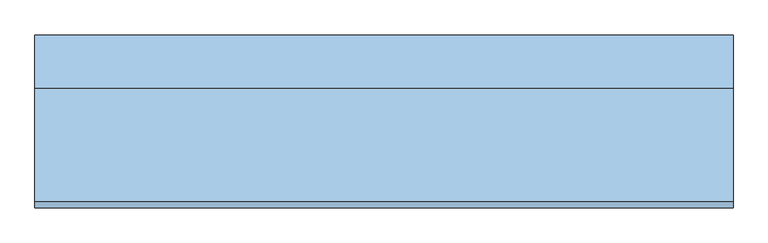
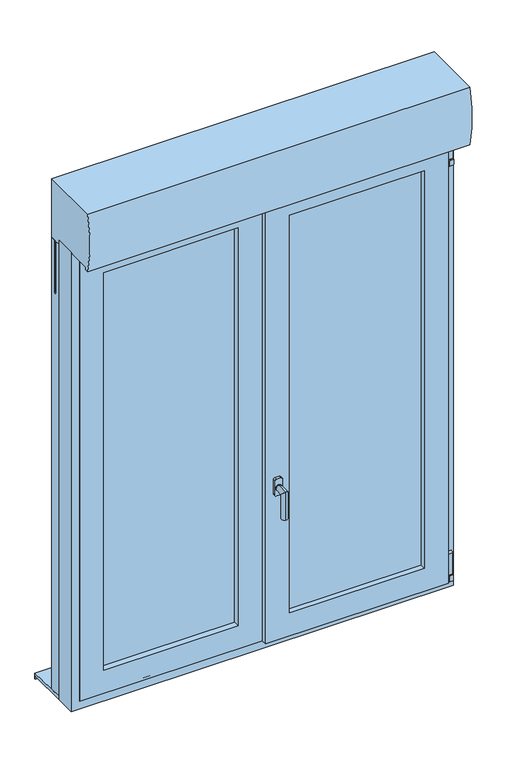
"""IFC4 building model written with IfcOpenShell, lengths in millimetres: window geometry, 5. OF1 + Fixe à G ENR PVC-ALU : 260X165 (LXH) cm."""

from ifc_helpers import new_model, si_unit, point, frame, frame_2d, origin, place, context, project, spatial, polyline, circle_curve, ellipse_curve, trimmed, segment, composite_curve, outline, extrude, faceted_brep, source, transform, mapped, element, save
from ifc_brep_helpers import plane_surface, cylinder_surface, advanced_brep


def window_5d41eee4(model_context):
    return source(origin(), model_context, "Body", "SolidModel", [
        extrude(outline(composite_curve([segment(polyline([(2401.552, 626.56), (2401.552, 641.56), (2419.5583831, 641.56)]), True, "CONTINUOUS"), segment(trimmed(circle_curve(frame_2d((2419.5583831, 639.5663831)), 1.9936169), [point((2419.5583831, 641.56))], [point((2421.552, 639.5663831))], False, "CARTESIAN"), True, "CONTINUOUS"), segment(polyline([(2421.552, 639.5663831), (2421.552, 628.5276754)]), True, "CONTINUOUS"), segment(trimmed(circle_curve(frame_2d((2419.5843246, 628.5276754)), 1.9676754), [point((2421.552, 628.5276754))], [point((2419.5843246, 626.56))], False, "CARTESIAN"), True, "CONTINUOUS"), segment(polyline([(2419.5843246, 626.56), (2401.552, 626.56)]), True, "CONTINUOUS")], self_intersect=False)), frame((0.0, -115.881543, 0.0), z_axis=(0.0, 1.0, 0.0), x_axis=(0.0, 0.0, 1.0)), (0.0, 0.0, 1.0), 15.0),
        extrude(outline(composite_curve([segment(trimmed(circle_curve(frame_2d((634.2805562, -108.3911314)), 5.0), [point((629.2805562, -108.3911314))], [point((639.2805562, -108.3911314))], False, "CARTESIAN"), True, "CONTINUOUS"), segment(trimmed(circle_curve(frame_2d((634.2805562, -108.3911314)), 5.0), [point((639.2805562, -108.3911314))], [point((629.2805562, -108.3911314))], False, "CARTESIAN"), True, "CONTINUOUS")], self_intersect=False)), frame((0.0, 0.0, 2341.552), z_axis=(0.0, 0.0, 1.0), x_axis=(1.0, 0.0, 0.0)), (0.0, 0.0, 1.0), 60.0),
        extrude(outline(composite_curve([segment(polyline([(621.56, -100.8911314), (639.6018237, -100.8911314)]), True, "CONTINUOUS"), segment(trimmed(circle_curve(frame_2d((639.6018237, -102.8493076)), 1.9581763), [point((639.6018237, -100.8911314))], [point((641.56, -102.8493076))], False, "CARTESIAN"), True, "CONTINUOUS"), segment(polyline([(641.56, -102.8493076), (641.56, -113.8729539)]), True, "CONTINUOUS"), segment(trimmed(circle_curve(frame_2d((639.5418225, -113.8729539)), 2.0181775), [point((641.56, -113.8729539))], [point((639.5418225, -115.8911314))], False, "CARTESIAN"), True, "CONTINUOUS"), segment(polyline([(639.5418225, -115.8911314), (621.56, -115.8911314), (621.56, -100.8911314)]), True, "CONTINUOUS")], self_intersect=False)), frame((0.0, 0.0, 2347.2784618), z_axis=(0.0, 0.0, 1.0), x_axis=(1.0, 0.0, 0.0)), (0.0, 0.0, 1.0), 50.0),
        extrude(outline(composite_curve([segment(polyline([(2342.2784618, 641.7805562), (2342.2784618, 626.7805562), (2324.2877116, 626.7805562)]), True, "CONTINUOUS"), segment(trimmed(circle_curve(frame_2d((2324.2877116, 628.7898059)), 2.0092498), [point((2324.2877116, 626.7805562))], [point((2322.2784618, 628.7898059))], False, "CARTESIAN"), True, "CONTINUOUS"), segment(polyline([(2322.2784618, 628.7898059), (2322.2784618, 640.1303507)]), True, "CONTINUOUS"), segment(trimmed(circle_curve(frame_2d((2324.2521312, 639.8068867)), 2.0), [point((2322.2784618, 640.1303507))], [point((2323.9286672, 641.7805562))], False, "CARTESIAN"), True, "CONTINUOUS"), segment(polyline([(2323.9286672, 641.7805562), (2342.2784618, 641.7805562)]), True, "CONTINUOUS")], self_intersect=False)), frame((0.0, -115.881543, 0.0), z_axis=(0.0, 1.0, 0.0), x_axis=(0.0, 0.0, 1.0)), (0.0, 0.0, 1.0), 15.0),
        extrude(outline(composite_curve([segment(trimmed(circle_curve(frame_2d((634.2805562, -107.5530691)), 5.0), [point((629.2805562, -107.5530691))], [point((639.2805562, -107.5530691))], False, "CARTESIAN"), True, "CONTINUOUS"), segment(trimmed(circle_curve(frame_2d((634.2805562, -107.5530691)), 5.0), [point((639.2805562, -107.5530691))], [point((629.2805562, -107.5530691))], False, "CARTESIAN"), True, "CONTINUOUS")], self_intersect=False)), frame((0.0, 0.0, 848.448), z_axis=(0.0, 0.0, 1.0), x_axis=(1.0, 0.0, 0.0)), (0.0, 0.0, 1.0), 5.0),
        extrude(outline(composite_curve([segment(polyline([(848.448, 641.7805562), (848.448, 626.7805562), (830.4572498, 626.7805562)]), True, "CONTINUOUS"), segment(trimmed(circle_curve(frame_2d((830.4572498, 628.7898059)), 2.0092498), [point((830.4572498, 626.7805562))], [point((828.448, 628.7898059))], False, "CARTESIAN"), True, "CONTINUOUS"), segment(polyline([(828.448, 628.7898059), (828.448, 640.1303507)]), True, "CONTINUOUS"), segment(trimmed(circle_curve(frame_2d((830.4216694, 639.8068867)), 2.0), [point((828.448, 640.1303507))], [point((830.0982054, 641.7805562))], False, "CARTESIAN"), True, "CONTINUOUS"), segment(polyline([(830.0982054, 641.7805562), (848.448, 641.7805562)]), True, "CONTINUOUS")], self_intersect=False)), frame((0.0, -115.0434807, 0.0), z_axis=(0.0, 1.0, 0.0), x_axis=(0.0, 0.0, 1.0)), (0.0, 0.0, 1.0), 15.0),
        extrude(outline(composite_curve([segment(polyline([(621.56, -100.0530691), (639.6018237, -100.0530691)]), True, "CONTINUOUS"), segment(trimmed(circle_curve(frame_2d((639.6018237, -102.0112454)), 1.9581763), [point((639.6018237, -100.0530691))], [point((641.56, -102.0112454))], False, "CARTESIAN"), True, "CONTINUOUS"), segment(polyline([(641.56, -102.0112454), (641.56, -113.0348917)]), True, "CONTINUOUS"), segment(trimmed(circle_curve(frame_2d((639.5418225, -113.0348917)), 2.0181775), [point((641.56, -113.0348917))], [point((639.5418225, -115.0530691))], False, "CARTESIAN"), True, "CONTINUOUS"), segment(polyline([(639.5418225, -115.0530691), (621.56, -115.0530691), (621.56, -100.0530691)]), True, "CONTINUOUS")], self_intersect=False)), frame((0.0, 0.0, 853.448), z_axis=(0.0, 0.0, 1.0), x_axis=(1.0, 0.0, 0.0)), (0.0, 0.0, 1.0), 75.0),
        advanced_brep(
        [(46.5, -129.3239543, 1414.448), (31.5, -129.3239543, 1414.448), (26.5, -129.3239543, 1409.448), (26.5, -129.3239543, 1359.448), (31.5, -129.3239543, 1354.448), (46.5, -129.3239543, 1354.448), (51.5, -129.3239543, 1359.448), (51.5, -129.3239543, 1409.448), (39.2771873, -129.3239543, 1392.2518349), (39.2771873, -129.3239543, 1372.2518349), (46.5, -117.4674689, 1414.448), (51.5, -117.4674689, 1409.448), (51.5, -117.4674689, 1359.448), (46.5, -117.4674689, 1354.448), (31.5, -117.4674689, 1354.448), (26.5, -117.4674689, 1359.448), (26.5, -117.4674689, 1409.448), (31.5, -117.4674689, 1414.448), (39.2771873, -133.0531938, 1372.2518349), (39.2771873, -133.0531938, 1392.2518349), (39.2771873, -173.0531938, 1392.2518349), (39.2771873, -153.0531938, 1372.2518349), (39.2771873, -173.0531938, 1292.2518349), (39.2771873, -153.0531938, 1292.2518349)],
        [
            (0, 1),
            (1, 2, circle_curve(frame((31.5, -129.3239543, 1409.448), z_axis=(0.0, -1.0, 0.0), x_axis=(-1.0, 0.0, 0.0)), 5.0)),
            (2, 3),
            (3, 4, circle_curve(frame((31.5, -129.3239543, 1359.448), z_axis=(0.0, -1.0, 0.0), x_axis=(-1.0, 0.0, 0.0)), 5.0)),
            (4, 5),
            (5, 6, circle_curve(frame((46.5, -129.3239543, 1359.448), z_axis=(0.0, -1.0, 0.0), x_axis=(-1.0, 0.0, 0.0)), 5.0)),
            (6, 7),
            (7, 0, circle_curve(frame((46.5, -129.3239543, 1409.448), z_axis=(0.0, -1.0, 0.0), x_axis=(-1.0, 0.0, 0.0)), 5.0)),
            (8, 9, circle_curve(frame((39.2771873, -129.3239543, 1382.2518349), z_axis=(0.0, 1.0, 0.0), x_axis=(0.0, 0.0, -1.0)), 10.0)),
            (9, 8, circle_curve(frame((39.2771873, -129.3239543, 1382.2518349), z_axis=(0.0, 1.0, 0.0), x_axis=(0.0, 0.0, -1.0)), 10.0)),
            (10, 11, circle_curve(frame((46.5, -117.4674689, 1409.448), z_axis=(0.0, 1.0, 0.0), x_axis=(-1.0, 0.0, 0.0)), 5.0)),
            (11, 12),
            (12, 13, circle_curve(frame((46.5, -117.4674689, 1359.448), z_axis=(0.0, 1.0, 0.0), x_axis=(-1.0, 0.0, 0.0)), 5.0)),
            (13, 14),
            (14, 15, circle_curve(frame((31.5, -117.4674689, 1359.448), z_axis=(0.0, 1.0, 0.0), x_axis=(-1.0, 0.0, 0.0)), 5.0)),
            (15, 16),
            (16, 17, circle_curve(frame((31.5, -117.4674689, 1409.448), z_axis=(0.0, 1.0, 0.0), x_axis=(-1.0, 0.0, 0.0)), 5.0)),
            (17, 10),
            (7, 11),
            (10, 0),
            (6, 12),
            (5, 13),
            (4, 14),
            (3, 15),
            (2, 16),
            (1, 17),
            (18, 19, circle_curve(frame((39.2771873, -133.0531938, 1382.2518349), z_axis=(0.0, -1.0, 0.0), x_axis=(0.0, 0.0, -1.0)), 10.0)),
            (19, 20),
            (20, 21, ellipse_curve(frame((39.2771873, -163.0531938, 1382.2518349), z_axis=(0.0, 0.7071067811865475, 0.7071067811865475), x_axis=(0.0, 0.7071067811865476, -0.7071067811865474)), 14.1421356, 10.0)),
            (21, 18),
            (19, 18, circle_curve(frame((39.2771873, -133.0531938, 1382.2518349), z_axis=(0.0, -1.0, 0.0), x_axis=(0.0, 0.0, -1.0)), 10.0)),
            (21, 20, ellipse_curve(frame((39.2771873, -163.0531938, 1382.2518349), z_axis=(0.0, 0.7071067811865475, 0.7071067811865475), x_axis=(0.0, 0.7071067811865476, -0.7071067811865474)), 14.1421356, 10.0)),
            (22, 23, circle_curve(frame((39.2771873, -163.0531938, 1292.2518349), z_axis=(0.0, 0.0, -1.0), x_axis=(0.0, 1.0, 0.0)), 10.0)),
            (23, 22, circle_curve(frame((39.2771873, -163.0531938, 1292.2518349), z_axis=(0.0, 0.0, -1.0), x_axis=(0.0, 1.0, 0.0)), 10.0)),
            (20, 22),
            (23, 21),
            (18, 9),
            (8, 19),
        ],
        [
            plane_surface(frame((41.5, -129.3239543, 1409.448), z_axis=(0.0, -1.0, 0.0), x_axis=(0.0, 0.0, -1.0))),
            plane_surface(frame((41.5, -117.4674689, 1409.448), z_axis=(0.0, 1.0, 0.0), x_axis=(0.0, 0.0, 1.0))),
            cylinder_surface(frame((46.5, -129.3239543, 1409.448), z_axis=(0.0, 1.0, 0.0), x_axis=(-1.0, 0.0, 0.0)), 5.0),
            plane_surface(frame((51.5, -117.4674689, 1409.448), z_axis=(1.0, 0.0, 0.0), x_axis=(0.0, -1.0, 0.0))),
            cylinder_surface(frame((46.5, -129.3239543, 1359.448), z_axis=(0.0, 1.0, 0.0), x_axis=(-1.0, 0.0, 0.0)), 5.0),
            plane_surface(frame((46.5, -117.4674689, 1354.448), z_axis=(0.0, 0.0, -1.0), x_axis=(0.0, -1.0, 0.0))),
            cylinder_surface(frame((31.5, -129.3239543, 1359.448), z_axis=(0.0, 1.0, 0.0), x_axis=(-1.0, 0.0, 0.0)), 5.0),
            plane_surface(frame((26.5, -117.4674689, 1359.448), z_axis=(-1.0, 0.0, 0.0), x_axis=(0.0, -1.0, 0.0))),
            cylinder_surface(frame((31.5, -129.3239543, 1409.448), z_axis=(0.0, 1.0, 0.0), x_axis=(-1.0, 0.0, 0.0)), 5.0),
            plane_surface(frame((31.5, -117.4674689, 1414.448), z_axis=(0.0, 0.0, 1.0), x_axis=(0.0, -1.0, 0.0))),
            cylinder_surface(frame((39.2771873, -133.0531938, 1382.2518349), z_axis=(0.0, 1.0, 0.0), x_axis=(0.0, 0.0, -1.0)), 10.0),
            plane_surface(frame((51.5, -163.0531938, 1292.2518349), z_axis=(0.0, 0.0, -1.0), x_axis=(1.0, 0.0, 0.0))),
            cylinder_surface(frame((39.2771873, -163.0531938, 1382.2518349), z_axis=(0.0, 0.0, 1.0), x_axis=(0.0, 1.0, 0.0)), 10.0),
            cylinder_surface(frame((39.2771873, -129.3239543, 1382.2518349), z_axis=(0.0, 1.0, 0.0), x_axis=(0.0, 0.0, -1.0)), 10.0),
        ],
        [
            (0, [[1, 2, 3, 4, 5, 6, 7, 8], [9, 10]]),
            (1, [[11, 12, 13, 14, 15, 16, 17, 18]]),
            (2, [[-8, 19, -11, 20]]),
            (3, [[-7, 21, -12, -19]]),
            (4, [[-6, 22, -13, -21]]),
            (5, [[-5, 23, -14, -22]]),
            (6, [[-4, 24, -15, -23]]),
            (7, [[-3, 25, -16, -24]]),
            (8, [[-2, 26, -17, -25]]),
            (9, [[-1, -20, -18, -26]]),
            (10, [[27, 28, 29, 30]]),
            (10, [[-28, 31, -30, 32]]),
            (11, [[33, 34]]),
            (12, [[-29, 35, -34, 36]]),
            (12, [[-32, -36, -33, -35]]),
            (13, [[-27, 37, -9, 38]]),
            (13, [[-31, -38, -10, -37]]),
        ],
    ),
        faceted_brep([(-650.0, -100.02, 2450.0), (-650.0, -28.9, 2450.0), (-650.0, -28.9, 800.0), (-650.0, -100.02, 800.0), (650.0, -28.9, 2450.0), (650.0, -28.9, 800.0), (-592.0983858, -28.9, 857.9016142), (592.0983858, -28.9, 857.9016142), (592.0983858, -28.9, 2392.0983858), (-592.0983858, -28.9, 2392.0983858), (650.0, -100.02, 800.0), (650.0, -100.02, 2450.0), (-613.424, -100.02, 2413.424), (613.424, -100.02, 2413.424), (613.424, -100.02, 836.576), (-613.424, -100.02, 836.576), (-613.424, -44.648, 2413.424), (-613.424, -44.648, 836.576), (613.424, -44.648, 836.576), (613.424, -44.648, 2413.424), (-592.0983858, -44.648, 2392.0983858), (592.0983858, -44.648, 2392.0983858), (592.0983858, -44.648, 857.9016142), (-592.0983858, -44.648, 857.9016142)], [[[0, 1, 2, 3]], [[1, 4, 5, 2], [6, 7, 8, 9]], [[3, 2, 5, 10]], [[3, 10, 11, 0], [12, 13, 14, 15]], [[16, 12, 15, 17]], [[17, 15, 14, 18]], [[17, 18, 19, 16], [20, 21, 22, 23]], [[9, 20, 23, 6]], [[6, 23, 22, 7]], [[10, 5, 4, 11]], [[18, 14, 13, 19]], [[7, 22, 21, 8]], [[11, 4, 1, 0]], [[19, 13, 12, 16]], [[8, 21, 20, 9]]]),
        extrude(outline(polyline([(20.324, -100.0434807), (-0.004, -100.0434807), (-0.004, -44.648), (-29.4576142, -44.648), (-29.4576142, -28.9), (35.0045299, -28.9), (35.0045299, -44.648), (20.324, -44.648), (20.324, -100.0434807)])), frame((0.0, 0.0, 857.9016142), z_axis=(0.0, 0.0, 1.0), x_axis=(1.0, 0.0, 0.0)), (0.0, 0.0, 1.0), 1534.2),
        extrude(outline(polyline([(-553.4, -54.213906), (-553.4, -50.213906), (-68.1, -50.213906), (-68.1, -54.213906), (-553.4, -54.213906)])), frame((0.0, 0.0, 896.5824883), z_axis=(0.0, 0.0, 1.0), x_axis=(1.0, 0.0, 0.0)), (0.0, 0.0, 1.0), 1456.8350233),
        extrude(outline(polyline([(-553.4, -78.213906), (-553.4, -74.213906), (-68.1, -74.213906), (-68.1, -78.213906), (-553.4, -78.213906)])), frame((0.0, 0.0, 896.5824883), z_axis=(0.0, 0.0, 1.0), x_axis=(1.0, 0.0, 0.0)), (0.0, 0.0, 1.0), 1456.8350233),
        extrude(outline(polyline([(553.4, -96.019954), (553.4, -100.019954), (68.1, -100.019954), (68.1, -96.019954), (553.4, -96.019954)])), frame((0.0, 0.0, 896.5824883), z_axis=(0.0, 0.0, 1.0), x_axis=(1.0, 0.0, 0.0)), (0.0, 0.0, 1.0), 1456.8350233),
        extrude(outline(polyline([(553.4, -68.9786213), (553.4, -72.9786213), (68.1, -72.9786213), (68.1, -68.9786213), (553.4, -68.9786213)])), frame((0.0, 0.0, 896.5824883), z_axis=(0.0, 0.0, 1.0), x_axis=(1.0, 0.0, 0.0)), (0.0, 0.0, 1.0), 1456.8350233),
        extrude(outline(polyline([(553.4, -41.5821328), (553.4, -47.5821328), (68.1, -47.5821328), (68.1, -41.5821328), (553.4, -41.5821328)])), frame((0.0, 0.0, 896.5824883), z_axis=(0.0, 0.0, 1.0), x_axis=(1.0, 0.0, 0.0)), (0.0, 0.0, 1.0), 1456.8350233),
        faceted_brep([(-29.4576142, -28.9, 2392.0983858), (-29.4576142, -44.648, 2392.0983858), (-29.4576142, -44.648, 857.9016142), (-29.4576142, -28.9, 857.9016142), (-0.004, -44.648, 828.448), (-621.56, -44.648, 828.448), (-621.56, -44.648, 2421.552), (-0.004, -44.648, 2421.552), (-592.1063858, -44.648, 2392.0983858), (-592.1063858, -44.648, 857.9016142), (-592.1063858, -28.9, 857.9016142), (-592.1063858, -28.9, 2392.0983858), (-82.0319508, -28.9, 2339.5240492), (-539.5320492, -28.9, 2339.5240492), (-539.5320492, -28.9, 910.4759508), (-82.0319508, -28.9, 910.4759508), (-539.5320492, -50.213906, 910.4759508), (-539.5320492, -50.213906, 2339.5240492), (-82.0319508, -50.213906, 910.4759508), (-82.0319508, -50.213906, 2339.5240492), (-0.004, -100.963906, 828.448), (-621.56, -100.963906, 828.448), (-621.56, -100.963906, 2421.552), (-0.004, -100.963906, 2421.552), (-82.0319508, -100.963906, 910.4759508), (-539.5320492, -100.963906, 910.4759508), (-539.5320492, -100.963906, 2339.5240492), (-82.0319508, -100.963906, 2339.5240492), (-82.0319508, -78.213906, 910.4759508), (-539.5320492, -78.213906, 910.4759508), (-539.5320492, -78.213906, 2339.5240492), (-82.0319508, -78.213906, 2339.5240492), (-68.1384883, -50.213906, 2353.4175117), (-553.4255117, -50.213906, 2353.4175117), (-553.4255117, -50.213906, 896.5824883), (-68.1384883, -50.213906, 896.5824883), (-68.1384883, -54.213906, 2353.4175117), (-68.1384883, -54.213906, 896.5824883), (-553.4255117, -54.213906, 896.5824883), (-553.4255117, -54.213906, 2353.4175117), (-82.0319508, -54.213906, 2339.5240492), (-539.5320492, -54.213906, 2339.5240492), (-539.5320492, -54.213906, 910.4759508), (-82.0319508, -54.213906, 910.4759508), (-68.1384883, -78.213906, 896.5824883), (-553.4255117, -78.213906, 896.5824883), (-553.4255117, -78.213906, 2353.4175117), (-68.1384883, -78.213906, 2353.4175117), (-539.5320492, -74.213906, 910.4759508), (-539.5320492, -74.213906, 2339.5240492), (-82.0319508, -74.213906, 910.4759508), (-82.0319508, -74.213906, 2339.5240492), (-68.1384883, -74.213906, 2353.4175117), (-553.4255117, -74.213906, 2353.4175117), (-553.4255117, -74.213906, 896.5824883), (-68.1384883, -74.213906, 896.5824883)], [[[0, 1, 2, 3]], [[4, 5, 6, 7], [1, 8, 9, 2]], [[3, 2, 9, 10]], [[3, 10, 11, 0], [12, 13, 14, 15]], [[10, 9, 8, 11]], [[16, 14, 13, 17]], [[18, 15, 14, 16]], [[19, 12, 15, 18]], [[4, 20, 21, 5]], [[5, 21, 22, 6]], [[23, 20, 4, 7]], [[23, 22, 21, 20], [24, 25, 26, 27]], [[24, 28, 29, 25]], [[25, 29, 30, 26]], [[27, 31, 28, 24]], [[32, 33, 34, 35], [18, 16, 17, 19]], [[36, 32, 35, 37]], [[37, 35, 34, 38]], [[37, 38, 39, 36], [40, 41, 42, 43]], [[44, 45, 46, 47], [31, 30, 29, 28]], [[38, 34, 33, 39]], [[48, 42, 41, 49]], [[50, 43, 42, 48]], [[51, 40, 43, 50]], [[52, 53, 54, 55], [50, 48, 49, 51]], [[47, 52, 55, 44]], [[44, 55, 54, 45]], [[45, 54, 53, 46]], [[11, 8, 1, 0]], [[17, 13, 12, 19]], [[6, 22, 23, 7]], [[26, 30, 31, 27]], [[39, 33, 32, 36]], [[49, 41, 40, 51]], [[46, 53, 52, 47]]]),
        faceted_brep([(561.6086701, -48.2039543, 2361.6086701), (561.6086701, -100.019954, 2361.6086701), (561.6086701, -100.019954, 888.3913299), (561.6086701, -48.2039543, 888.3913299), (59.9473299, -100.019954, 2361.6086701), (59.9473299, -100.019954, 888.3913299), (553.4175117, -100.019954, 2353.4175117), (553.4175117, -100.019954, 896.5824883), (68.1384883, -100.019954, 896.5824883), (68.1384883, -100.019954, 2353.4175117), (59.9473299, -48.2039543, 888.3913299), (35.0045299, -48.2039543, 2386.5514701), (35.0045299, -48.2039543, 863.4485299), (586.5514701, -48.2039543, 863.4485299), (586.5514701, -48.2039543, 2386.5514701), (59.9473299, -48.2039543, 2361.6086701), (586.5514701, -28.7475756, 2386.5514701), (586.5514701, -28.7475756, 863.4485299), (35.0045299, -28.7475756, 863.4485299), (35.0045299, -28.7475756, 2386.5514701), (86.2166614, -28.7475756, 2335.3393386), (86.2166614, -28.7475756, 914.6606614), (535.3393386, -28.7475756, 914.6606614), (535.3393386, -28.7475756, 2335.3393386), (535.3393386, -41.5821328, 2335.3393386), (535.3393386, -41.5821328, 914.6606614), (86.2166614, -41.5821328, 914.6606614), (68.1384883, -41.5821328, 2353.4175117), (68.1384883, -41.5821328, 896.5824883), (553.4175117, -41.5821328, 896.5824883), (553.4175117, -41.5821328, 2353.4175117), (86.2166614, -41.5821328, 2335.3393386), (536.1974041, -68.9786213, 2336.1974041), (536.1974041, -47.5821328, 2336.1974041), (536.1974041, -47.5821328, 913.8025959), (536.1974041, -68.9786213, 913.8025959), (553.4175117, -47.5821328, 2353.4175117), (553.4175117, -47.5821328, 896.5824883), (68.1384883, -47.5821328, 896.5824883), (68.1384883, -47.5821328, 2353.4175117), (85.3585959, -47.5821328, 2336.1974041), (85.3585959, -47.5821328, 913.8025959), (85.3585959, -68.9786213, 913.8025959), (68.1384883, -68.9786213, 2353.4175117), (68.1384883, -68.9786213, 896.5824883), (553.4175117, -68.9786213, 896.5824883), (553.4175117, -68.9786213, 2353.4175117), (85.3585959, -68.9786213, 2336.1974041), (539.5240492, -96.019954, 2339.5240492), (539.5240492, -72.9786213, 2339.5240492), (539.5240492, -72.9786213, 910.4759508), (539.5240492, -96.019954, 910.4759508), (553.4175117, -72.9786213, 2353.4175117), (553.4175117, -72.9786213, 896.5824883), (68.1384883, -72.9786213, 896.5824883), (68.1384883, -72.9786213, 2353.4175117), (82.0319508, -72.9786213, 2339.5240492), (82.0319508, -72.9786213, 910.4759508), (82.0319508, -96.019954, 910.4759508), (68.1384883, -96.019954, 2353.4175117), (68.1384883, -96.019954, 896.5824883), (553.4175117, -96.019954, 896.5824883), (553.4175117, -96.019954, 2353.4175117), (82.0319508, -96.019954, 2339.5240492)], [[[0, 1, 2, 3]], [[4, 5, 2, 1], [6, 7, 8, 9]], [[3, 2, 5, 10]], [[11, 12, 13, 14], [0, 3, 10, 15]], [[16, 14, 13, 17]], [[17, 13, 12, 18]], [[16, 17, 18, 19], [20, 21, 22, 23]], [[24, 23, 22, 25]], [[25, 22, 21, 26]], [[27, 28, 29, 30], [24, 25, 26, 31]], [[32, 33, 34, 35]], [[36, 37, 38, 39], [40, 41, 34, 33]], [[35, 34, 41, 42]], [[43, 44, 45, 46], [32, 35, 42, 47]], [[48, 49, 50, 51]], [[52, 53, 54, 55], [56, 57, 50, 49]], [[51, 50, 57, 58]], [[59, 60, 61, 62], [48, 51, 58, 63]], [[6, 62, 61, 7]], [[7, 61, 60, 8]], [[36, 30, 29, 37]], [[37, 29, 28, 38]], [[52, 46, 45, 53]], [[53, 45, 44, 54]], [[58, 57, 56, 63]], [[8, 60, 59, 9]], [[10, 5, 4, 15]], [[18, 12, 11, 19]], [[26, 21, 20, 31]], [[38, 28, 27, 39]], [[42, 41, 40, 47]], [[54, 44, 43, 55]], [[15, 4, 1, 0]], [[19, 11, 14, 16]], [[31, 20, 23, 24]], [[47, 40, 33, 32]], [[63, 56, 49, 48]], [[9, 59, 62, 6]], [[39, 27, 30, 36]], [[55, 43, 46, 52]]]),
        faceted_brep([(0.004, -119.3239543, 828.448), (0.004, -100.0434807, 828.448), (621.56, -100.0434807, 828.448), (621.56, -119.3239543, 828.448), (621.56, -100.0434807, 2421.552), (621.56, -119.3239543, 2421.552), (0.004, -100.0434807, 2421.552), (601.24, -100.0434807, 2401.232), (20.324, -100.0434807, 2401.232), (20.324, -100.0434807, 848.768), (601.24, -100.0434807, 848.768), (0.004, -119.3239543, 2421.552), (539.3585043, -119.3239543, 910.6494957), (82.2054957, -119.3239543, 910.6494957), (82.2054957, -119.3239543, 2339.3505043), (539.3585043, -119.3239543, 2339.3505043), (82.2054957, -100.019954, 910.6494957), (539.3585043, -100.019954, 910.6494957), (539.3585043, -100.019954, 2339.3505043), (561.6166701, -100.019954, 888.3913299), (59.9473299, -100.019954, 888.3913299), (59.9473299, -100.019954, 2361.6086701), (561.6166701, -100.019954, 2361.6086701), (82.2054957, -100.019954, 2339.3505043), (59.9473299, -48.2039543, 888.3913299), (561.6166701, -48.2039543, 888.3913299), (561.6166701, -48.2039543, 2361.6086701), (592.1063858, -48.2039543, 857.9016142), (29.4576142, -48.2039543, 857.9016142), (29.4576142, -48.2039543, 2392.0983858), (592.1063858, -48.2039543, 2392.0983858), (59.9473299, -48.2039543, 2361.6086701), (29.4576142, -44.648, 857.9016142), (592.1063858, -44.648, 857.9016142), (592.1063858, -44.648, 2392.0983858), (601.24, -44.648, 848.768), (20.324, -44.648, 848.768), (20.324, -44.648, 2401.232), (601.24, -44.648, 2401.232), (29.4576142, -44.648, 2392.0983858)], [[[0, 1, 2, 3]], [[3, 2, 4, 5]], [[2, 1, 6, 4], [7, 8, 9, 10]], [[5, 11, 0, 3], [12, 13, 14, 15]], [[16, 13, 12, 17]], [[17, 12, 15, 18]], [[19, 20, 21, 22], [18, 23, 16, 17]], [[24, 20, 19, 25]], [[25, 19, 22, 26]], [[27, 28, 29, 30], [26, 31, 24, 25]], [[32, 28, 27, 33]], [[33, 27, 30, 34]], [[35, 36, 37, 38], [34, 39, 32, 33]], [[9, 36, 35, 10]], [[10, 35, 38, 7]], [[11, 6, 1, 0]], [[23, 14, 13, 16]], [[31, 21, 20, 24]], [[39, 29, 28, 32]], [[8, 37, 36, 9]], [[5, 4, 6, 11]], [[18, 15, 14, 23]], [[26, 22, 21, 31]], [[34, 30, 29, 39]], [[7, 38, 37, 8]]]),
        extrude(outline(composite_curve([segment(polyline([(-186.3991192, 2440.3409737), (-197.3316724, 2440.3409737)]), True, "CONTINUOUS"), segment(trimmed(circle_curve(frame_2d((189.1050523, 2543.6204869)), 400.0), [point((-197.3316724, 2440.3409737))], [point((-197.3316724, 2646.9))], False, "CARTESIAN"), True, "CONTINUOUS"), segment(polyline([(-197.3316724, 2646.9), (13.0999994, 2646.9), (13.0999994, 2436.0216226), (-4.9499979, 2436.0216226), (-4.9499979, 2434.2216225), (-2.7215215, 2434.2216225), (-2.7215215, 2409.9791617), (-4.9499979, 2409.9791617), (-4.9499979, 2408.1791616), (-2.7215215, 2408.1791616), (-2.7215215, 2383.9367008), (-4.9499979, 2383.9367008), (-4.9499979, 2382.1367006), (-2.7215215, 2382.1367006), (-2.7215215, 2357.8942398), (-4.9499979, 2357.8942398), (-4.9499979, 2356.0942397), (-2.7215215, 2356.0942397), (-2.7215215, 2331.8517789), (-4.9499979, 2331.8517789), (-4.9499979, 2330.0517788), (-2.7215215, 2330.0517788), (-2.7215215, 2305.809318), (-4.9499979, 2305.809318), (-4.9499979, 2304.0093179), (-2.7215215, 2304.0093179), (-2.7215215, 2279.7668571), (-4.9499979, 2279.7668571), (-4.9499979, 2277.966857), (-2.7215215, 2277.966857), (-2.7215215, 2253.7243961), (-4.9499979, 2253.7243961), (-4.9499979, 2251.9243963), (-3.044091, 2251.9243963), (-3.044091, 2248.977424), (-6.4, 2245.6232688), (-9.8999992, 2248.9774251), (-9.8999992, 2251.9243963), (-7.7499979, 2251.9243963), (-7.7499979, 2253.7243961), (-9.9999979, 2253.7243961), (-9.9999979, 2277.9668572), (-7.7499979, 2277.9668572), (-7.7499979, 2279.7668571), (-9.9999979, 2279.7668571), (-9.9999979, 2304.0093181), (-7.7499979, 2304.0093181), (-7.7499979, 2305.809318), (-9.9999979, 2305.809318), (-9.9999979, 2330.051779), (-7.7499979, 2330.051779), (-7.7499979, 2331.8517789), (-9.9999979, 2331.8517789), (-9.9999979, 2356.09424), (-7.7499979, 2356.09424), (-7.7499979, 2357.8942398), (-9.9999979, 2357.8942398), (-9.9999979, 2382.1367009), (-7.7499979, 2382.1367009), (-7.7499979, 2383.9367008), (-9.9999979, 2383.9367008), (-9.9999979, 2408.1791618), (-7.7499979, 2408.1791618), (-7.7499979, 2409.9791617), (-9.9999979, 2409.9791617), (-9.9999979, 2434.2216227), (-7.7499979, 2434.2216227), (-7.7499979, 2436.0216226), (-28.9, 2436.0216226), (-28.9, 2450.0), (-186.3991192, 2450.0), (-186.3991192, 2440.3409737)]), True, "CONTINUOUS")], self_intersect=False)), frame((-650.0, 0.0, 0.0), z_axis=(1.0, 0.0, 0.0), x_axis=(0.0, 1.0, 0.0)), (0.0, 0.0, 1.0), 1300.0),
        extrude(outline(polyline([(110.0, 800.0), (-28.9, 800.0), (-28.9, 813.0), (113.0, 809.772555), (113.0, 790.0), (110.0, 790.0), (110.0, 800.0)])), frame((-650.0, 0.0, 0.0), z_axis=(1.0, 0.0, 0.0), x_axis=(0.0, 1.0, 0.0)), (0.0, 0.0, 1.0), 1300.0),
        extrude(outline(polyline([(-649.0, 13.0999994), (-649.0, 2.0999994), (-629.0, 2.0999994), (-629.0, -0.9000006), (-649.0, -0.9000006), (-649.0, -11.9000006), (-629.0, -11.9000006), (-629.0, -14.9000006), (-649.0, -14.9000006), (-649.0, -28.9000006), (-650.0, -28.9000006), (-650.0, 13.0999994), (-649.0, 13.0999994)])), frame((0.0, 0.0, 813.0), z_axis=(0.0, 0.0, 1.0), x_axis=(1.0, 0.0, 0.0)), (0.0, 0.0, 1.0), 1623.0216226),
        extrude(outline(polyline([(649.0, 13.0999994), (650.0, 13.0999994), (650.0, -28.9000006), (649.0, -28.9000006), (649.0, -14.9000006), (629.0, -14.9000006), (629.0, -11.9000006), (649.0, -11.9000006), (649.0, -0.9000006), (629.0, -0.9000006), (629.0, 2.0999994), (649.0, 2.0999994), (649.0, 13.0999994)])), frame((0.0, 0.0, 813.0), z_axis=(0.0, 0.0, 1.0), x_axis=(1.0, 0.0, 0.0)), (0.0, 0.0, 1.0), 1623.0216226),
    ])


if __name__ == "__main__":
    model = new_model("IFC4")
    model_context = context("Model", 3, world=origin())
    ifc_project = project(units=[si_unit("LENGTHUNIT", "METRE", prefix="MILLI")], contexts=[model_context])
    site = spatial("IfcSite", under=ifc_project)
    building = spatial("IfcBuilding", under=site)
    placement = place(None, origin())
    window_shape = window_5d41eee4(model_context)
    element("IfcWindow", 1, ObjectType="5. OF1 + Fixe à G ENR PVC-ALU : 260X165 (LXH) cm", at=placement, inside=building, context=model_context, shape_type="MappedRepresentation", body=[
        mapped(window_shape, transform((0.0, 0.0, 0.0), x_axis=(1.0, 0.0, 0.0), y_axis=(0.0, 1.0, 0.0), z_axis=(0.0, 0.0, 1.0))),
    ])
    save(model, "model.ifc")
